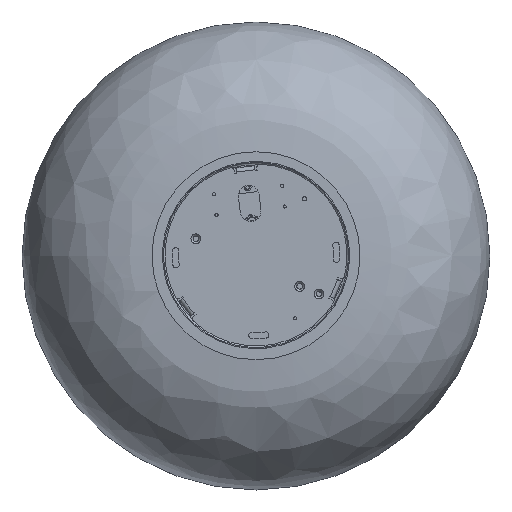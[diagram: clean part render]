
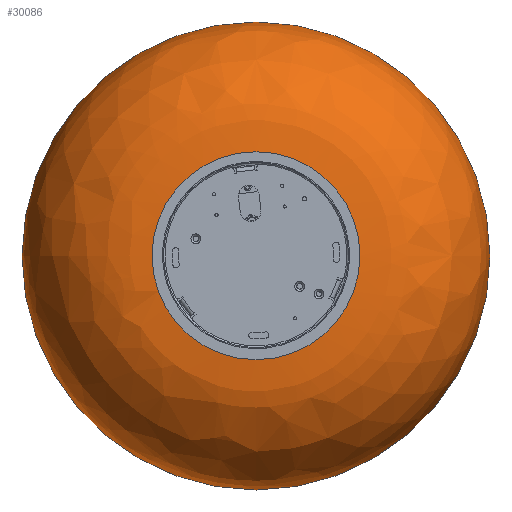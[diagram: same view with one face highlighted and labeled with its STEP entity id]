
A CAD part, top view. The second image highlights one B-rep face of the part: STEP entity #30086.
In plain terms, the highlighted free-form (B-spline) face has degree [2, 2] with [3, 9] control points.
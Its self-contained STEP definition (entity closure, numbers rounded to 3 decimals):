
#409=(
BOUNDED_SURFACE()
B_SPLINE_SURFACE(2,2,((#45922,#45923,#45924,#45925,#45926,#45927,#45928,
#45929,#45930),(#45931,#45932,#45933,#45934,#45935,#45936,#45937,#45938,
#45939),(#45940,#45941,#45942,#45943,#45944,#45945,#45946,#45947,#45948)),
 .UNSPECIFIED.,.F.,.T.,.F.)
B_SPLINE_SURFACE_WITH_KNOTS((3,3),(3,2,2,2,3),(-1.571,0.),
(-3.142,-1.571,0.,1.571,3.142),
 .UNSPECIFIED.)
GEOMETRIC_REPRESENTATION_ITEM()
RATIONAL_B_SPLINE_SURFACE(((1.,0.707,1.,0.707,1.,
0.707,1.,0.707,1.),(0.707,0.5,
0.707,0.5,0.707,0.5,
0.707,0.5,0.707),(1.,0.707,
1.,0.707,1.,0.707,1.,0.707,1.)))
REPRESENTATION_ITEM('')
SURFACE()
);
#636=CIRCLE('',#32401,100.);
#637=CIRCLE('',#32402,225.);
#638=CIRCLE('',#32403,125.);
#639=CIRCLE('',#32404,225.);
#3160=FACE_OUTER_BOUND('',#4861,.T.);
#4861=EDGE_LOOP('',(#19288,#19289,#19290,#19291,#19292));
#11947=VERTEX_POINT('',#45920);
#11948=VERTEX_POINT('',#45949);
#11949=VERTEX_POINT('',#45950);
#14825=EDGE_CURVE('',#11947,#11947,#636,.T.);
#14826=EDGE_CURVE('',#11948,#11949,#637,.T.);
#14827=EDGE_CURVE('',#11948,#11947,#638,.T.);
#14828=EDGE_CURVE('',#11949,#11948,#639,.T.);
#19288=ORIENTED_EDGE('',*,*,#14826,.F.);
#19289=ORIENTED_EDGE('',*,*,#14827,.T.);
#19290=ORIENTED_EDGE('',*,*,#14825,.T.);
#19291=ORIENTED_EDGE('',*,*,#14827,.F.);
#19292=ORIENTED_EDGE('',*,*,#14828,.F.);
#30086=ADVANCED_FACE('',(#3160),#409,.F.);
#32401=AXIS2_PLACEMENT_3D('',#45921,#35988,#35989);
#32402=AXIS2_PLACEMENT_3D('',#45951,#35990,#35991);
#32403=AXIS2_PLACEMENT_3D('',#45952,#35992,#35993);
#32404=AXIS2_PLACEMENT_3D('',#45953,#35994,#35995);
#35988=DIRECTION('center_axis',(0.,0.,1.));
#35989=DIRECTION('ref_axis',(1.,0.,0.));
#35990=DIRECTION('center_axis',(0.,0.,1.));
#35991=DIRECTION('ref_axis',(1.,0.,0.));
#35992=DIRECTION('center_axis',(0.,-1.,0.));
#35993=DIRECTION('ref_axis',(-1.,0.,0.));
#35994=DIRECTION('center_axis',(0.,0.,1.));
#35995=DIRECTION('ref_axis',(1.,0.,0.));
#45920=CARTESIAN_POINT('',(-100.,0.,215.));
#45921=CARTESIAN_POINT('Origin',(0.,0.,215.));
#45922=CARTESIAN_POINT('Ctrl Pts',(-100.,0.,215.));
#45923=CARTESIAN_POINT('Ctrl Pts',(-100.,-100.,215.));
#45924=CARTESIAN_POINT('Ctrl Pts',(0.,-100.,215.));
#45925=CARTESIAN_POINT('Ctrl Pts',(100.,-100.,215.));
#45926=CARTESIAN_POINT('Ctrl Pts',(100.,0.,215.));
#45927=CARTESIAN_POINT('Ctrl Pts',(100.,100.,215.));
#45928=CARTESIAN_POINT('Ctrl Pts',(0.,100.,215.));
#45929=CARTESIAN_POINT('Ctrl Pts',(-100.,100.,215.));
#45930=CARTESIAN_POINT('Ctrl Pts',(-100.,0.,215.));
#45931=CARTESIAN_POINT('Ctrl Pts',(-225.,0.,215.));
#45932=CARTESIAN_POINT('Ctrl Pts',(-225.,-225.,215.));
#45933=CARTESIAN_POINT('Ctrl Pts',(0.,-225.,215.));
#45934=CARTESIAN_POINT('Ctrl Pts',(225.,-225.,215.));
#45935=CARTESIAN_POINT('Ctrl Pts',(225.,0.,215.));
#45936=CARTESIAN_POINT('Ctrl Pts',(225.,225.,215.));
#45937=CARTESIAN_POINT('Ctrl Pts',(0.,225.,215.));
#45938=CARTESIAN_POINT('Ctrl Pts',(-225.,225.,215.));
#45939=CARTESIAN_POINT('Ctrl Pts',(-225.,0.,215.));
#45940=CARTESIAN_POINT('Ctrl Pts',(-225.,0.,340.));
#45941=CARTESIAN_POINT('Ctrl Pts',(-225.,-225.,340.));
#45942=CARTESIAN_POINT('Ctrl Pts',(0.,-225.,340.));
#45943=CARTESIAN_POINT('Ctrl Pts',(225.,-225.,340.));
#45944=CARTESIAN_POINT('Ctrl Pts',(225.,0.,340.));
#45945=CARTESIAN_POINT('Ctrl Pts',(225.,225.,340.));
#45946=CARTESIAN_POINT('Ctrl Pts',(0.,225.,340.));
#45947=CARTESIAN_POINT('Ctrl Pts',(-225.,225.,340.));
#45948=CARTESIAN_POINT('Ctrl Pts',(-225.,0.,340.));
#45949=CARTESIAN_POINT('',(-225.,0.,340.));
#45950=CARTESIAN_POINT('',(0.,225.,340.));
#45951=CARTESIAN_POINT('Origin',(0.,0.,340.));
#45952=CARTESIAN_POINT('Origin',(-100.,0.,340.));
#45953=CARTESIAN_POINT('Origin',(0.,0.,340.));
